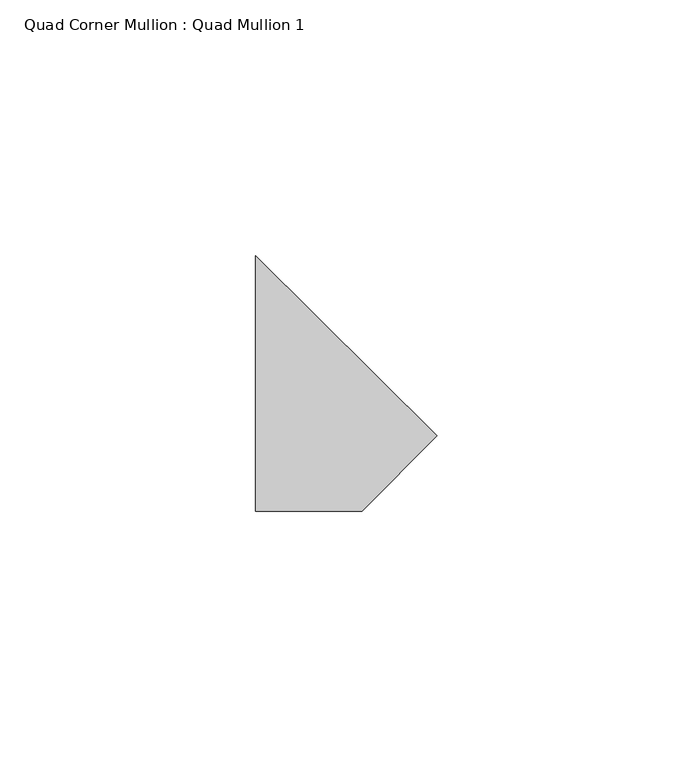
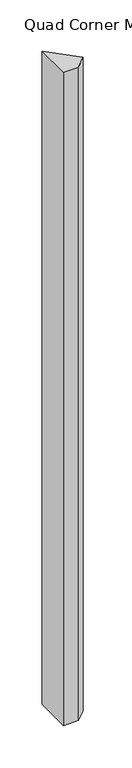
"""IFC4 building model written with IfcOpenShell, lengths in millimetres: member geometry, Quad Corner Mullion : Quad Mullion 1."""

import ifcopenshell
import ifcopenshell.guid

model = None  # the IFC model being written
_history = None  # IfcOwnerHistory: only IFC2X3 demands one
_inside = {}  # id of a spatial element -> (the spatial element, [elements in it])
_under = {}  # id of a project, library or spatial element -> (it, [spatial elements below it])
_declared = {}  # id of a project -> (the project, [libraries it declares])
_typed = {}  # id of a type object -> (the type object, [elements of that type])
_made_of = {}  # id of a material, layer set ... -> (it, [elements and type objects made of it])


def new_model(schema):
    """Start an empty IFC model of exactly this schema.

    Asked for "IFC4X3", IfcOpenShell would pick the latest addendum, in which some entities
    have other attributes; the version numbers below select the first issue.
    IFC2X3 requires an IfcOwnerHistory on every rooted entity: one is made here for all.
    """
    global model, _history
    if schema == "IFC4X3":
        model = ifcopenshell.file(schema_version=(4, 3, 0, 0))
    else:
        model = ifcopenshell.file(schema=schema)
    _inside.clear()
    _under.clear()
    _declared.clear()
    _typed.clear()
    _made_of.clear()
    _history = None
    if model.schema == "IFC2X3":
        org = make("IfcOrganization", Name="unknown")
        user = make(
            "IfcPersonAndOrganization",
            ThePerson=make("IfcPerson", FamilyName="unknown"),
            TheOrganization=org,
        )
        app = make(
            "IfcApplication",
            ApplicationDeveloper=org,
            Version="unknown",
            ApplicationFullName="unknown",
            ApplicationIdentifier="unknown",
        )
        _history = make(
            "IfcOwnerHistory",
            OwningUser=user,
            OwningApplication=app,
            ChangeAction="ADDED",
            CreationDate=0,
        )
    return model


def make(cls, **values):
    """One entity of the class cls with the attributes given. An attribute that is None is left unset."""
    return model.create_entity(
        cls, **{name: value for name, value in values.items() if value is not None}
    )


def rooted(cls, **values):
    """An entity with a GlobalId (a new one), such as an element, a storey or a relation."""
    return make(cls, GlobalId=ifcopenshell.guid.new(), OwnerHistory=_history, **values)


def si_unit(unit_type, name, prefix=None):
    """IfcSIUnit, for example si_unit("LENGTHUNIT", "METRE", prefix="MILLI")."""
    return make("IfcSIUnit", UnitType=unit_type, Prefix=prefix, Name=name)


def assignment(units):
    """IfcUnitAssignment: the units of a project."""
    return None if units is None else make("IfcUnitAssignment", Units=units)


def point(xyz):
    """IfcCartesianPoint."""
    return None if xyz is None else make("IfcCartesianPoint", Coordinates=xyz)


def direction(xyz):
    """IfcDirection."""
    return None if xyz is None else make("IfcDirection", DirectionRatios=xyz)


def frame(location, z_axis=None, x_axis=None):
    """IfcAxis2Placement3D, a coordinate frame: its origin and axes. An axis left out is left unset."""
    return make(
        "IfcAxis2Placement3D",
        Location=point(location),
        Axis=direction(z_axis),
        RefDirection=direction(x_axis),
    )


def origin():
    """The frame at (0, 0, 0) with its axes left unset."""
    return frame((0.0, 0.0, 0.0))


def place(relative_to, where):
    """IfcLocalPlacement: puts the frame where relative to a parent placement (None: the world)."""
    return make(
        "IfcLocalPlacement", PlacementRelTo=relative_to, RelativePlacement=where
    )


def context(
    kind, dimensions, precision=None, world=None, true_north=None, identifier=None
):
    """IfcGeometricRepresentationContext, for example the 3D "Model" context."""
    return make(
        "IfcGeometricRepresentationContext",
        ContextIdentifier=identifier,
        ContextType=kind,
        CoordinateSpaceDimension=dimensions,
        Precision=precision,
        WorldCoordinateSystem=world,
        TrueNorth=true_north,
    )


def project(units=None, contexts=None):
    """IfcProject with its units and contexts."""
    return rooted(
        "IfcProject",
        Name="project",
        RepresentationContexts=contexts,
        UnitsInContext=assignment(units),
    )


def spatial(cls, under=None, at=None, **own):
    """A site, building, storey or space (cls), placed at a placement, below another one or the project."""
    s = rooted(cls, ObjectPlacement=at, **own)
    if under is not None:
        _under.setdefault(under.id(), (under, []))[1].append(s)
    return s


def polyline(points):
    """IfcPolyline through the points."""
    return make("IfcPolyline", Points=[point(p) for p in points])


def outline(outer, holes=None, kind="AREA"):
    """IfcArbitraryClosedProfileDef: a profile drawn as a closed curve; with holes, ...WithVoids."""
    if holes is None:
        return make("IfcArbitraryClosedProfileDef", ProfileType=kind, OuterCurve=outer)
    return make(
        "IfcArbitraryProfileDefWithVoids",
        ProfileType=kind,
        OuterCurve=outer,
        InnerCurves=holes,
    )


def extrude(swept, where, along, depth):
    """IfcExtrudedAreaSolid: the profile swept, set in the frame where, extruded along a direction by depth."""
    return make(
        "IfcExtrudedAreaSolid",
        SweptArea=swept,
        Position=where,
        ExtrudedDirection=direction(along),
        Depth=depth,
    )


def shape(context_of_items, identifier, shape_type, items):
    """IfcShapeRepresentation: the items that make up one representation, for example the "Body"."""
    return make(
        "IfcShapeRepresentation",
        ContextOfItems=context_of_items,
        RepresentationIdentifier=identifier,
        RepresentationType=shape_type,
        Items=items,
    )


def source(mapping_origin, context_of_items, identifier, shape_type, items):
    """IfcRepresentationMap: a shape defined once, which mapped items show again and again."""
    return make(
        "IfcRepresentationMap",
        MappingOrigin=mapping_origin,
        MappedRepresentation=shape(context_of_items, identifier, shape_type, items),
    )


def transform(
    local_origin,
    x_axis=None,
    y_axis=None,
    z_axis=None,
    scale=None,
    scale2=None,
    scale3=None,
    uniform=True,
):
    """IfcCartesianTransformationOperator3D, or its non-uniform kind. x_axis, y_axis, z_axis: its Axis1, 2, 3."""
    if uniform:
        return make(
            "IfcCartesianTransformationOperator3D",
            Axis1=direction(x_axis),
            Axis2=direction(y_axis),
            LocalOrigin=point(local_origin),
            Scale=scale,
            Axis3=direction(z_axis),
        )
    return make(
        "IfcCartesianTransformationOperator3DnonUniform",
        Axis1=direction(x_axis),
        Axis2=direction(y_axis),
        LocalOrigin=point(local_origin),
        Scale=scale,
        Axis3=direction(z_axis),
        Scale2=scale2,
        Scale3=scale3,
    )


def mapped(mapping_source, mapping_target):
    """IfcMappedItem: shows the shape of a source again, moved by a transform."""
    return make(
        "IfcMappedItem", MappingSource=mapping_source, MappingTarget=mapping_target
    )


def made_of(thing, what):
    """Note that an element or type object is made of a material, layer set ...; save() writes the relation."""
    if what is not None:
        _made_of.setdefault(what.id(), (what, []))[1].append(thing)
    return thing


def element(
    cls,
    number,
    at=None,
    inside=None,
    cuts=None,
    type_object=None,
    material=None,
    context=None,
    identifier="Body",
    shape_type=None,
    held_by="IfcProductDefinitionShape",
    body=None,
    shapes=None,
    **own,
):
    """One element of the class cls, such as IfcWall. Its Tag is "e" and its number.

    at: its placement. inside: the storey or other place that contains it. cuts: it is an
    opening in that element (IfcRelVoidsElement). A single representation is given by context,
    identifier, shape_type and body (its items); several are given by shapes. held_by: the class
    of the entity that holds the representations. save() writes the other relations.
    """
    e = rooted(cls, Tag="e%d" % number, ObjectPlacement=at, **own)
    if body is not None:
        shapes = [shape(context, identifier, shape_type, body)]
    if shapes is not None:
        e.Representation = make(held_by, Representations=shapes)
    if inside is not None:
        _inside.setdefault(inside.id(), (inside, []))[1].append(e)
    if cuts is not None:
        rooted(
            "IfcRelVoidsElement", RelatingBuildingElement=cuts, RelatedOpeningElement=e
        )
    if type_object is not None:
        _typed.setdefault(type_object.id(), (type_object, []))[1].append(e)
    return made_of(e, material)


def aggregate(whole, parts):
    """IfcRelAggregates: a whole, such as a stair, and the parts it consists of."""
    return rooted("IfcRelAggregates", RelatingObject=whole, RelatedObjects=parts)


def save(model, path):
    """Write the relations noted so far, then the file.

    IfcRelAggregates (storeys below a building ...), IfcRelContainedInSpatialStructure (elements
    in a storey), IfcRelDefinesByType, IfcRelAssociatesMaterial and IfcRelDeclares: one each for
    every whole, place, type object, material and project.
    """
    for whole, parts in _under.values():
        aggregate(whole, parts)
    for where, things in _inside.values():
        rooted(
            "IfcRelContainedInSpatialStructure",
            RelatedElements=things,
            RelatingStructure=where,
        )
    for kind, things in _typed.values():
        rooted("IfcRelDefinesByType", RelatedObjects=things, RelatingType=kind)
    for what, things in _made_of.values():
        rooted("IfcRelAssociatesMaterial", RelatedObjects=things, RelatingMaterial=what)
    for by, libraries in _declared.values():
        rooted("IfcRelDeclares", RelatingContext=by, RelatedDefinitions=libraries)
    model.write(path)


def quad_corner_mullion_quad_mullion_1_69b23131(model_context):
    return source(origin(), model_context, "Body", "SweptSolid", [
        extrude(outline(polyline([(25.0929703, -10.1955497), (10.4214391, -25.0), (-10.4214391, -25.0), (-10.4214391, 25.0), (25.0929703, -10.1955497)])), frame((0.0, 0.0, -940.0), z_axis=(0.0, 0.0, 1.0), x_axis=(1.0, 0.0, 0.0)), (0.0, 0.0, 1.0), 940.0),
    ])


if __name__ == "__main__":
    model = new_model("IFC4")
    model_context = context("Model", 3, world=origin())
    ifc_project = project(units=[si_unit("LENGTHUNIT", "METRE", prefix="MILLI")], contexts=[model_context])
    site = spatial("IfcSite", under=ifc_project)
    building = spatial("IfcBuilding", under=site)
    placement = place(None, origin())
    quad_corner_mullion_quad_mullion_1_shape = quad_corner_mullion_quad_mullion_1_69b23131(model_context)
    element("IfcMember", 1, ObjectType="Quad Corner Mullion : Quad Mullion 1", at=placement, inside=building, context=model_context, shape_type="MappedRepresentation", body=[
        mapped(quad_corner_mullion_quad_mullion_1_shape, transform((0.0, 0.0, 0.0), x_axis=(1.0, 0.0, 0.0), y_axis=(0.0, 1.0, 0.0), z_axis=(0.0, 0.0, 1.0))),
    ])
    save(model, "model.ifc")
